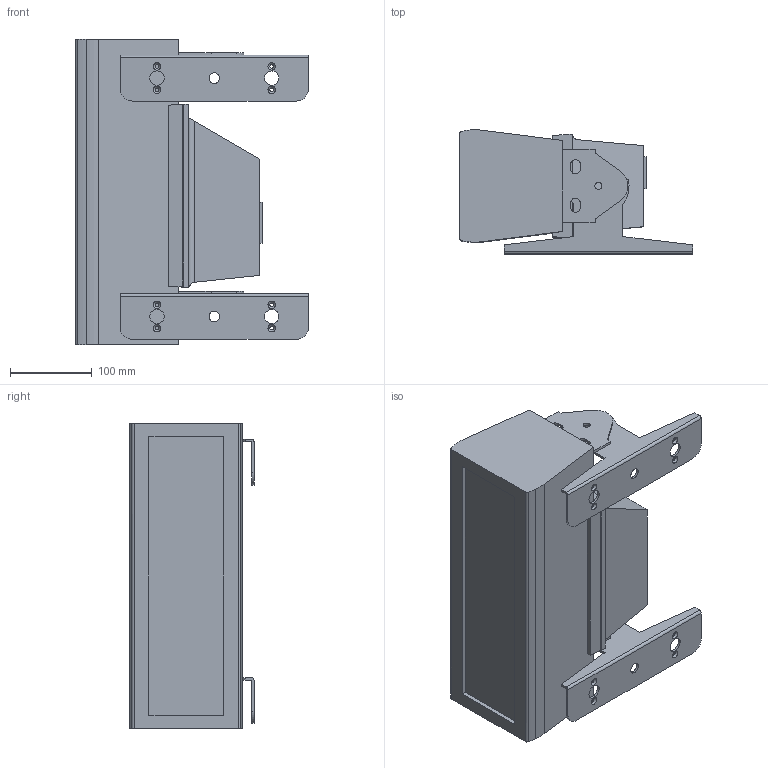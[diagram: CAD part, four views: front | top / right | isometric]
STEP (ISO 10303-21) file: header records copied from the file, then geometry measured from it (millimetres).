
FILE_DESCRIPTION(/* description */ (''),/* implementation_level */ '2;1');
FILE_NAME(/* name */ 'D:/dgooch/Documents/CADENG/PRO/Colorado Solo Batten 4/90/ColoradoSoloBatten4_90.step',/* time_stamp */ '2019-03-22T11:23:29-04:00',/* author */ ('dgooch'),/* organization */ (''),/* preprocessor_version */ 'ST-DEVELOPER v17.2',/* originating_system */ 'Autodesk Translation Framework v7.6.0.251',/* authorisation */ '');
FILE_SCHEMA (('AUTOMOTIVE_DESIGN { 1 0 10303 214 3 1 1 }'));
Length unit declared in the file: millimetre
Products named in the file (8): ColoradoSoloBatten4; Bracket; RD-SS356-040-A_1 (2); RD-SS356-036-B_3 (2); Bracket2; RD-SS356-040-A_1 (1); RD-SS356-036-B_3 (1); Main
Assembly tree (7 placements, depth 3):
  ColoradoSoloBatten4
    Bracket
      RD-SS356-040-A_1 (2)
      RD-SS356-036-B_3 (2)
    Bracket2
      RD-SS356-040-A_1 (1)
      RD-SS356-036-B_3 (1)
    Main
Bounding box: 284.54 x 151.46 x 373.2 mm (x, y, z)
Volume: 7927905 mm3; surface area: 383490.9 mm2
Topology: 3 solids, 3 shells, 148 faces, 424 edges, 286 vertices
Faces by surface type: plane 84, cylinder 54, cone 8, bspline 2
Full cylindrical faces by diameter (mm): 4.5 x8, 8.5 x4, 13 x2, 17.5 x4
Entity records: 5275 total; most frequent: CARTESIAN_POINT 963, DIRECTION 878, ORIENTED_EDGE 848, EDGE_CURVE 424, AXIS2_PLACEMENT_3D 297, VERTEX_POINT 286, LINE 284, VECTOR 284
